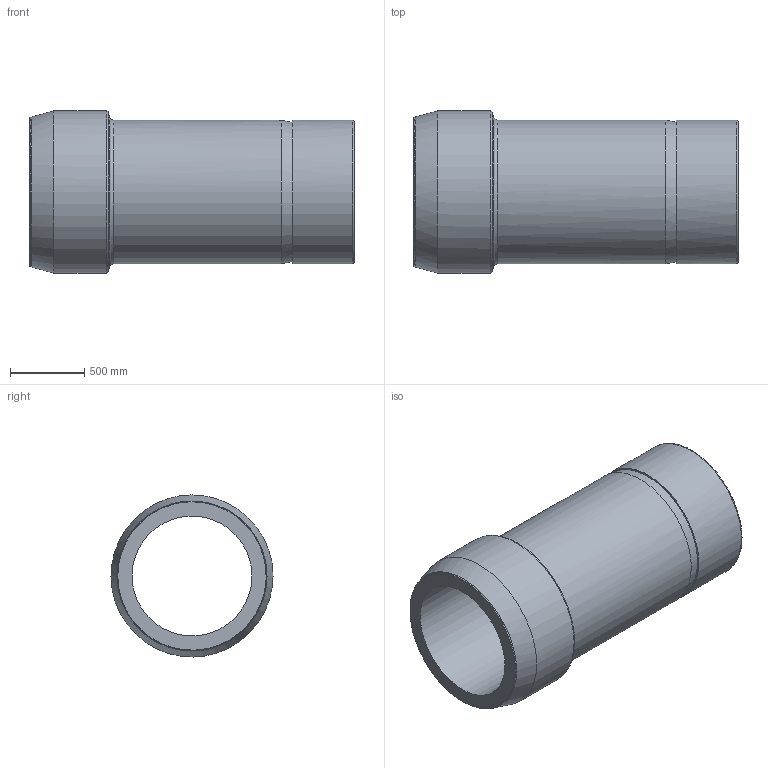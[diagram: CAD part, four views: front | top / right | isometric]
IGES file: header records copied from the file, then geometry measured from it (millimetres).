
Global section: file name: SPC-24; native system: Autodesk Inventor 2016; preprocessor: unknown; author: DESIGNPC2; date: 20151219.132422; units: millimetre
Bounding box: 2186.96 x 1092.2 x 1092.15 mm (x, y, z)
Volume: 582909236.8 mm3; surface area: 13056028.8 mm2
Topology: 1 solids, 1 shells, 15 faces, 48 edges, 36 vertices
Faces by surface type: bspline 15
